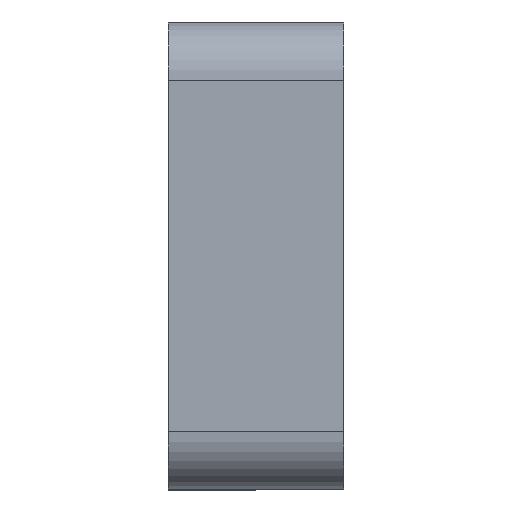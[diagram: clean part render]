
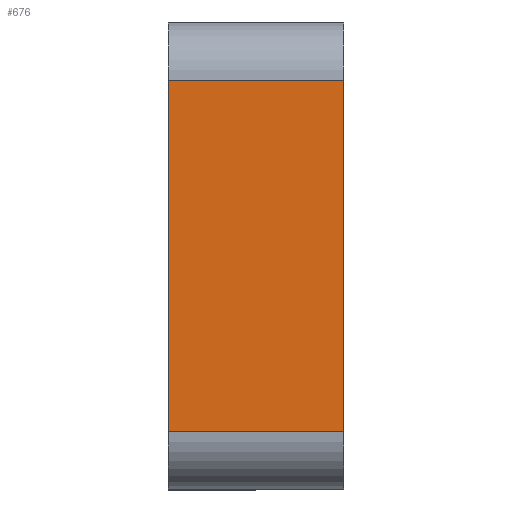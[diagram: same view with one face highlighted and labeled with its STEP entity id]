
A CAD part, left-side view. The second image highlights one B-rep face of the part: STEP entity #676.
In plain terms, the highlighted planar face has unit normal (-1, 0, 0).
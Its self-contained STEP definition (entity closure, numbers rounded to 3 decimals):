
#1 = VECTOR ( 'NONE', #552, 1000. ) ;
#6 = AXIS2_PLACEMENT_3D ( 'NONE', #620, #396, #35 ) ;
#27 = CARTESIAN_POINT ( 'NONE',  ( -23., 3., -3. ) ) ;
#35 = DIRECTION ( 'NONE',  ( 0., 0., -1. ) ) ;
#95 = LINE ( 'NONE', #659, #394 ) ;
#135 = CARTESIAN_POINT ( 'NONE',  ( -23., 3., 4. ) ) ;
#145 = CARTESIAN_POINT ( 'NONE',  ( -23., 0., 3. ) ) ;
#149 = CARTESIAN_POINT ( 'NONE',  ( -23., 3., 3. ) ) ;
#232 = ORIENTED_EDGE ( 'NONE', *, *, #598, .T. ) ;
#237 = LINE ( 'NONE', #262, #407 ) ;
#262 = CARTESIAN_POINT ( 'NONE',  ( -23., 3., 3. ) ) ;
#312 = CARTESIAN_POINT ( 'NONE',  ( -23., 0., -3. ) ) ;
#333 = VECTOR ( 'NONE', #554, 1000. ) ;
#336 = PLANE ( 'NONE',  #6 ) ;
#362 = EDGE_CURVE ( 'NONE', #395, #584, #472, .T. ) ;
#371 = DIRECTION ( 'NONE',  ( 0., 1., 0. ) ) ;
#386 = ORIENTED_EDGE ( 'NONE', *, *, #579, .T. ) ;
#394 = VECTOR ( 'NONE', #487, 1000. ) ;
#395 = VERTEX_POINT ( 'NONE', #27 ) ;
#396 = DIRECTION ( 'NONE',  ( 1., 0., 0. ) ) ;
#407 = VECTOR ( 'NONE', #371, 1000. ) ;
#413 = EDGE_LOOP ( 'NONE', ( #455, #520, #386, #232 ) ) ;
#439 = CARTESIAN_POINT ( 'NONE',  ( -23., 3., -3. ) ) ;
#455 = ORIENTED_EDGE ( 'NONE', *, *, #749, .F. ) ;
#472 = LINE ( 'NONE', #439, #1 ) ;
#481 = LINE ( 'NONE', #135, #333 ) ;
#485 = FACE_OUTER_BOUND ( 'NONE', #413, .T. ) ;
#487 = DIRECTION ( 'NONE',  ( 0., 0., 1. ) ) ;
#520 = ORIENTED_EDGE ( 'NONE', *, *, #362, .T. ) ;
#523 = VERTEX_POINT ( 'NONE', #145 ) ;
#552 = DIRECTION ( 'NONE',  ( 0., -1., 0. ) ) ;
#554 = DIRECTION ( 'NONE',  ( 0., 0., 1. ) ) ;
#579 = EDGE_CURVE ( 'NONE', #584, #523, #95, .T. ) ;
#584 = VERTEX_POINT ( 'NONE', #312 ) ;
#598 = EDGE_CURVE ( 'NONE', #523, #758, #237, .T. ) ;
#620 = CARTESIAN_POINT ( 'NONE',  ( -23., 3., 4. ) ) ;
#659 = CARTESIAN_POINT ( 'NONE',  ( -23., 0., 4. ) ) ;
#676 = ADVANCED_FACE ( 'NONE', ( #485 ), #336, .F. ) ;
#749 = EDGE_CURVE ( 'NONE', #395, #758, #481, .T. ) ;
#758 = VERTEX_POINT ( 'NONE', #149 ) ;
